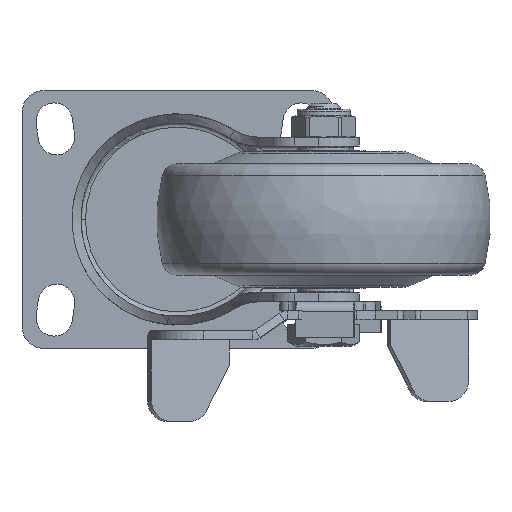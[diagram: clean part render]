
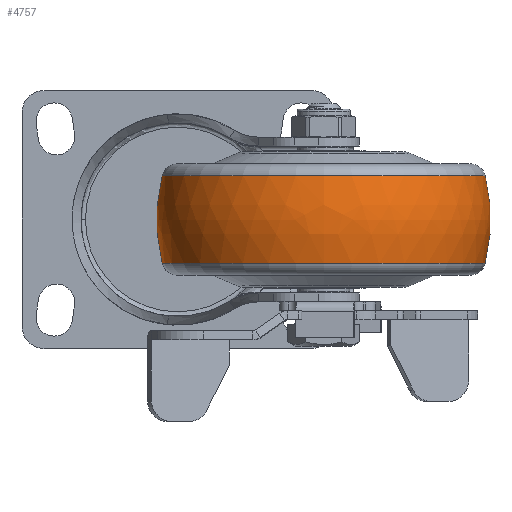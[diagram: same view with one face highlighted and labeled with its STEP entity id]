
A CAD part, front view. The second image highlights one B-rep face of the part: STEP entity #4757.
In plain terms, the highlighted free-form (B-spline) face has degree [3, 3] with [7, 4] control points.
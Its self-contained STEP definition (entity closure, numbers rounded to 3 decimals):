
#4295=CARTESIAN_POINT('',(0.,-2.5,0.));
#4296=DIRECTION('',(0.,0.,1.));
#4297=DIRECTION('',(0.247,0.969,0.));
#4298=AXIS2_PLACEMENT_3D('',#4295,#4296,#4297);
#4300=CARTESIAN_POINT('',(0.,2.5,0.));
#4301=DIRECTION('',(0.,0.,-1.));
#4302=DIRECTION('',(0.247,-0.969,0.));
#4303=AXIS2_PLACEMENT_3D('',#4300,#4301,#4302);
#4305=CARTESIAN_POINT('',(9.863,0.,0.));
#4306=DIRECTION('',(-1.,0.,0.));
#4307=DIRECTION('',(0.,1.,0.));
#4308=AXIS2_PLACEMENT_3D('',#4305,#4306,#4307);
#4320=CARTESIAN_POINT('',(-9.863,0.,0.));
#4321=DIRECTION('',(-1.,0.,0.));
#4322=DIRECTION('',(0.,1.,0.));
#4323=AXIS2_PLACEMENT_3D('',#4320,#4321,#4322);
#4600=CARTESIAN_POINT('',(9.863,36.265,0.));
#4601=CARTESIAN_POINT('',(-9.863,36.265,0.));
#4602=VERTEX_POINT('',#4600);
#4603=VERTEX_POINT('',#4601);
#4640=CARTESIAN_POINT('',(9.863,-36.265,0.));
#4641=CARTESIAN_POINT('',(-9.863,-36.265,0.));
#4642=VERTEX_POINT('',#4640);
#4643=VERTEX_POINT('',#4641);
#4720=CARTESIAN_POINT('',(-10.249,-36.093,
2.271));
#4721=CARTESIAN_POINT('',(-3.494,-37.88,
2.383));
#4722=CARTESIAN_POINT('',(3.494,-37.88,2.383));
#4723=CARTESIAN_POINT('',(10.249,-36.093,2.271));
#4724=CARTESIAN_POINT('',(-10.249,-37.491,
-19.941));
#4725=CARTESIAN_POINT('',(-3.494,-39.347,
-20.928));
#4726=CARTESIAN_POINT('',(3.494,-39.347,
-20.928));
#4727=CARTESIAN_POINT('',(10.249,-37.491,
-19.941));
#4728=CARTESIAN_POINT('',(-10.249,-22.256,
-36.165));
#4729=CARTESIAN_POINT('',(-3.494,-23.358,
-37.955));
#4730=CARTESIAN_POINT('',(3.494,-23.358,
-37.955));
#4731=CARTESIAN_POINT('',(10.249,-22.256,
-36.165));
#4732=CARTESIAN_POINT('',(-10.249,0.,-36.165));
#4733=CARTESIAN_POINT('',(-3.494,0.,-37.955));
#4734=CARTESIAN_POINT('',(3.494,0.,-37.955));
#4735=CARTESIAN_POINT('',(10.249,0.,-36.165));
#4736=CARTESIAN_POINT('',(-10.249,22.256,
-36.165));
#4737=CARTESIAN_POINT('',(-3.494,23.358,
-37.955));
#4738=CARTESIAN_POINT('',(3.494,23.358,-37.955));
#4739=CARTESIAN_POINT('',(10.249,22.256,-36.165));
#4740=CARTESIAN_POINT('',(-10.249,37.491,
-19.941));
#4741=CARTESIAN_POINT('',(-3.494,39.347,
-20.928));
#4742=CARTESIAN_POINT('',(3.494,39.347,-20.928));
#4743=CARTESIAN_POINT('',(10.249,37.491,-19.941));
#4744=CARTESIAN_POINT('',(-10.249,36.093,2.271));
#4745=CARTESIAN_POINT('',(-3.494,37.88,2.383));
#4746=CARTESIAN_POINT('',(3.494,37.88,2.383));
#4747=CARTESIAN_POINT('',(10.249,36.093,2.271));
#4748=(BOUNDED_SURFACE()B_SPLINE_SURFACE(3,3,((#4720,#4721,#4722,#4723),(#4724,
#4725,#4726,#4727),(#4728,#4729,#4730,#4731),(#4732,#4733,#4734,#4735),(#4736,
#4737,#4738,#4739),(#4740,#4741,#4742,#4743),(#4744,#4745,#4746,#4747)),
.UNSPECIFIED.,.F.,.F.,.F.)B_SPLINE_SURFACE_WITH_KNOTS((4,3,4),(4,4),(0.,1.,
2.),(0.,1.),.UNSPECIFIED.)GEOMETRIC_REPRESENTATION_ITEM()RATIONAL_B_SPLINE_SURFACE(((1.207,1.181,1.181,1.207),(
0.953,0.932,0.932,0.953),(
0.953,0.932,0.932,0.953),(
1.207,1.181,1.181,1.207),(
0.953,0.932,0.932,0.953),(
0.953,0.932,0.932,0.953),(
1.207,1.181,1.181,1.207)))REPRESENTATION_ITEM('')SURFACE());
#4749=ORIENTED_EDGE('',*,*,#4709,.T.);
#4751=ORIENTED_EDGE('',*,*,#4750,.T.);
#4752=ORIENTED_EDGE('',*,*,#4713,.F.);
#4754=ORIENTED_EDGE('',*,*,#4753,.F.);
#4755=EDGE_LOOP('',(#4749,#4751,#4752,#4754));
#4756=FACE_OUTER_BOUND('',#4755,.F.);
#4299=CIRCLE('',#4298,40.);
#4304=CIRCLE('',#4303,40.);
#4309=CIRCLE('',#4308,36.265);
#4324=CIRCLE('',#4323,36.265);
#4709=EDGE_CURVE('',#4602,#4603,#4299,.T.);
#4713=EDGE_CURVE('',#4642,#4643,#4304,.T.);
#4750=EDGE_CURVE('',#4603,#4643,#4324,.T.);
#4753=EDGE_CURVE('',#4602,#4642,#4309,.T.);
#4757=ADVANCED_FACE('',(#4756),#4748,.T.);
